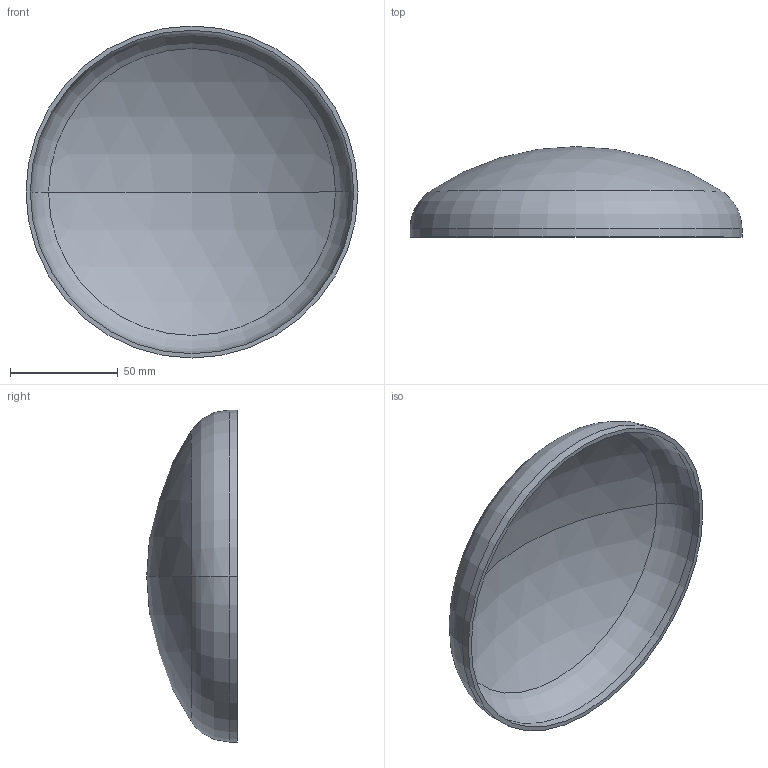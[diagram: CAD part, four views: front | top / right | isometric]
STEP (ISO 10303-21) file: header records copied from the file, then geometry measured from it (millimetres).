
FILE_DESCRIPTION (( 'STEP AP203' ), '1' );
FILE_NAME ('3D_R365_154x2_173371210.STEP', '2024-07-16T06:42:47', ( '' ), ( '' ), 'SwSTEP 2.0', 'SolidWorks 2024', '' );
FILE_SCHEMA (( 'CONFIG_CONTROL_DESIGN' ));
Length unit declared in the file: millimetre
Products named in the file (1): 3D_R365_154x2_173371210
Bounding box: 154 x 42 x 154 mm (x, y, z)
Volume: 52641.4 mm3; surface area: 53604.8 mm2
Topology: 1 solids, 1 shells, 13 faces, 24 edges, 14 vertices
Faces by surface type: sphere 4, torus 4, cylinder 4, plane 1
Entity records: 407 total; most frequent: DIRECTION 72, CARTESIAN_POINT 52, ORIENTED_EDGE 48, AXIS2_PLACEMENT_3D 34, EDGE_CURVE 24, CIRCLE 20, VERTEX_POINT 14, EDGE_LOOP 14
